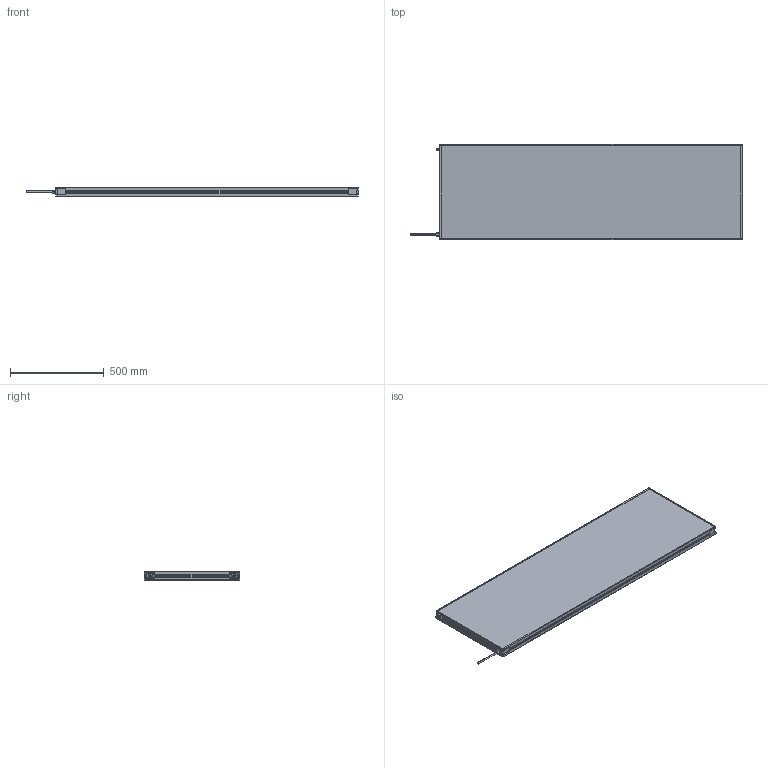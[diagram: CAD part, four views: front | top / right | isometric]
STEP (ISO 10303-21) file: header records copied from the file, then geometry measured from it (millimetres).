
FILE_DESCRIPTION (( 'STEP AP214' ), '1' );
FILE_NAME ('MBACK-xxxx-xxx-M1A2_CLIENT500x1600.STEP', '2022-04-01T11:41:56', ( '' ), ( '' ), 'SwSTEP 2.0', 'SolidWorks 2020', '' );
FILE_SCHEMA (( 'AUTOMOTIVE_DESIGN' ));
Length unit declared in the file: millimetre
Products named in the file (1): MBACK-xxxx-xxx-M1A2_CLIENT500x1600
Bounding box: 1767.4 x 508 x 45.5 mm (x, y, z)
Volume: 34036157.3 mm3; surface area: 1920831.6 mm2
Topology: 1 solids, 1 shells, 470 faces, 1210 edges, 804 vertices
Faces by surface type: plane 265, cylinder 117, bspline 80, cone 8
Entity records: 18046 total; most frequent: CARTESIAN_POINT 6837, ORIENTED_EDGE 2420, DIRECTION 2082, EDGE_CURVE 1210, VERTEX_POINT 804, VECTOR 800, LINE 800, AXIS2_PLACEMENT_3D 641
